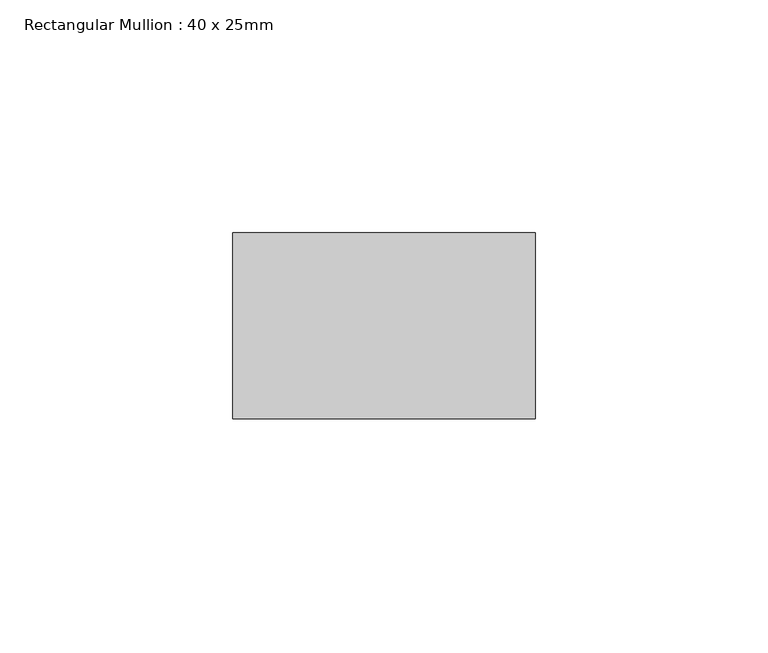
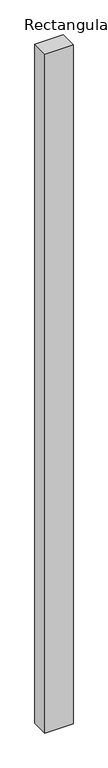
"""IFC4 building model written with IfcOpenShell, lengths in millimetres: member geometry, Rectangular Mullion : 40 x 25mm."""

from ifc_helpers import new_model, si_unit, frame, origin, place, context, project, spatial, polyline, outline, extrude, source, transform, mapped, element, save


def rectangular_mullion_40_x_25mm_8ee63ad1(model_context):
    return source(origin(), model_context, "Body", "SweptSolid", [
        extrude(outline(polyline([(0.0, -20.0), (0.0, -60.0), (-65.0, -60.0), (-65.0, -20.0), (0.0, -20.0)])), frame((0.0, 0.0, -1657.1177157), z_axis=(0.0, 0.0, 1.0), x_axis=(1.0, 0.0, 0.0)), (0.0, 0.0, 1.0), 1657.1177157),
    ])


if __name__ == "__main__":
    model = new_model("IFC4")
    model_context = context("Model", 3, world=origin())
    ifc_project = project(units=[si_unit("LENGTHUNIT", "METRE", prefix="MILLI")], contexts=[model_context])
    site = spatial("IfcSite", under=ifc_project)
    building = spatial("IfcBuilding", under=site)
    placement = place(None, origin())
    rectangular_mullion_40_x_25mm_shape = rectangular_mullion_40_x_25mm_8ee63ad1(model_context)
    element("IfcMember", 1, ObjectType="Rectangular Mullion : 40 x 25mm", at=placement, inside=building, context=model_context, shape_type="MappedRepresentation", body=[
        mapped(rectangular_mullion_40_x_25mm_shape, transform((0.0, 0.0, 0.0), x_axis=(1.0, 0.0, 0.0), y_axis=(0.0, 1.0, 0.0), z_axis=(0.0, 0.0, 1.0))),
    ])
    save(model, "model.ifc")
